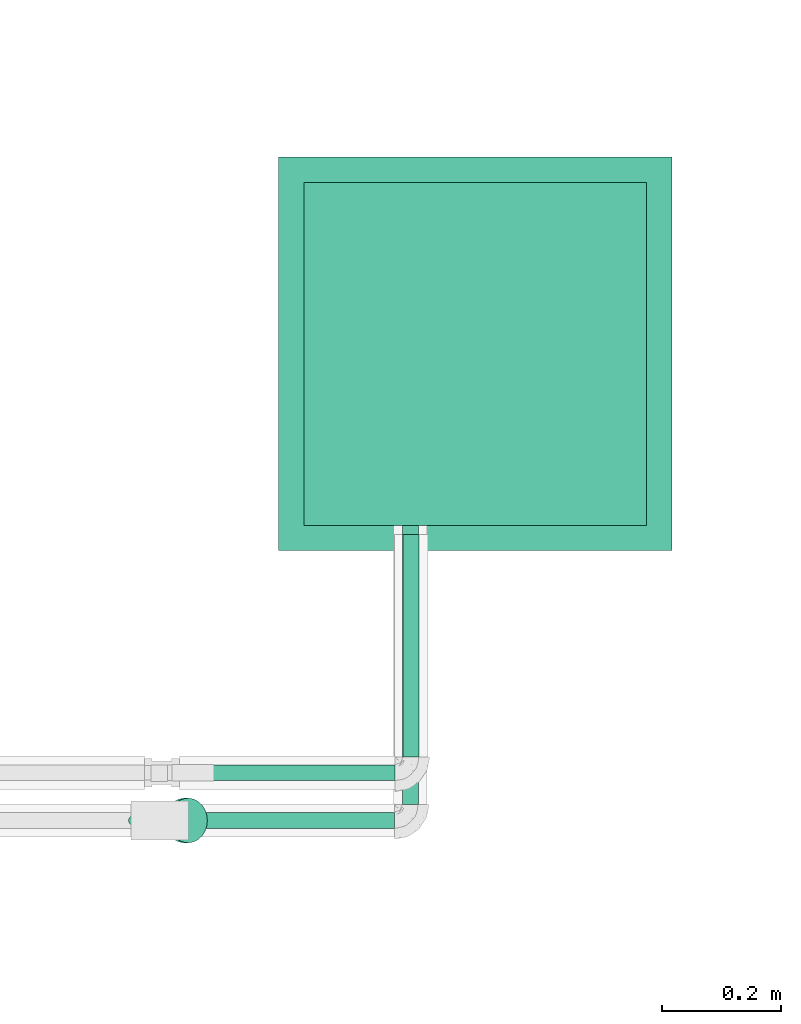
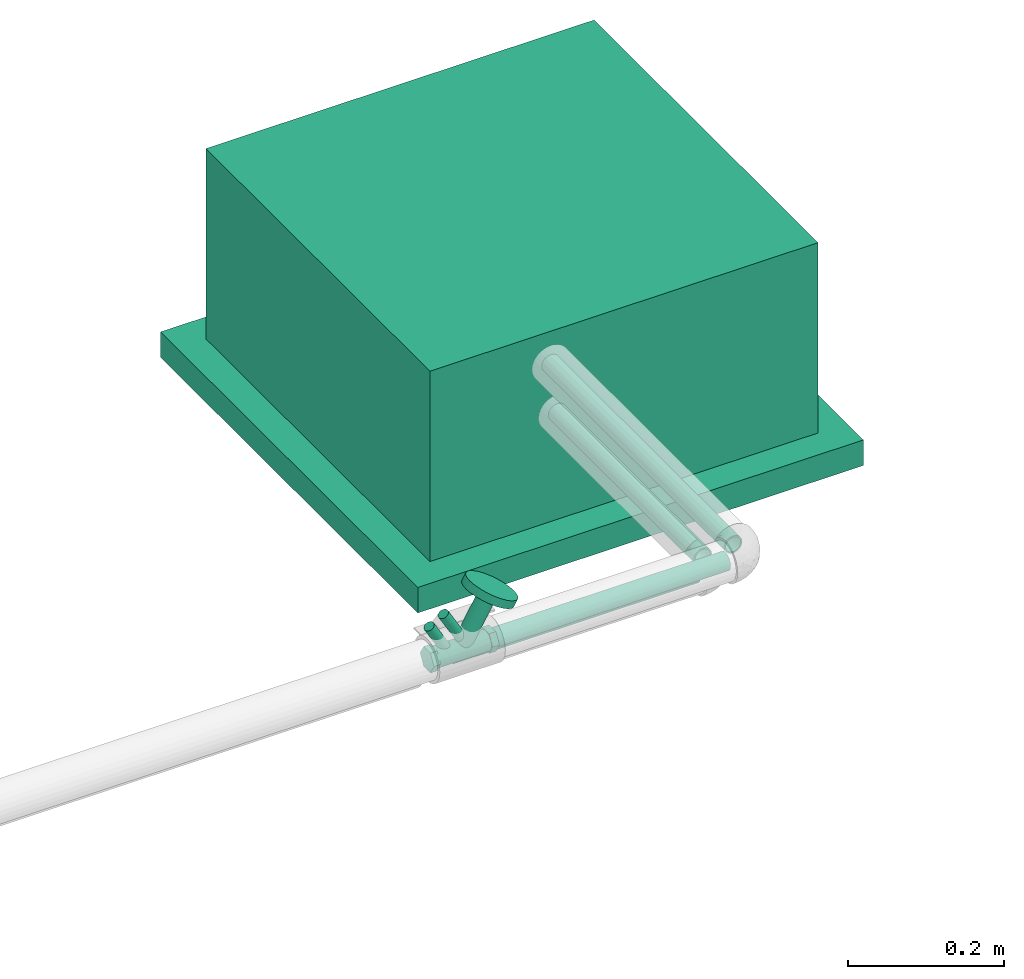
# One storey, part 62 of 108: 4 flow segments, 1 energy conversion device, 1 flow controller.
"""IFC2X3 building model written with IfcOpenShell, lengths in millimetres."""

from ifc_helpers import new_model, entity, si_unit, converted_unit, derived_unit, direction, frame, origin_with_axes, origin_2d_with_axis, place, context, subcontext, project, spatial, hollow_circle, extrude, open_shell, surface_model, source, transform, mapped, type_object, element, save


model = new_model("IFC2X3")

# Units and contexts
model_context = context("Model", 3, precision=0.01, world=frame((0.0, 4.29681676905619e-09, 0.0)), true_north=direction((4.01073788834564e-13, 1.0)))
plan_context = context("Plan", 3, precision=0.01, world=frame((0.0, 4.29681676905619e-09, 0.0)), true_north=direction((4.01073788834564e-13, 1.0)))
body_context = subcontext(model_context, "Body", "Model", "MODEL_VIEW")
ifc_project = project(units=[converted_unit("PLANEANGLEUNIT", "DEGREE", entity("IfcPositiveLengthMeasure", 0.0174532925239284), si_unit("PLANEANGLEUNIT", "RADIAN"), dimensions=[0, 0, 0, 0, 0, 0, 0]), si_unit("AREAUNIT", "SQUARE_METRE"), si_unit("LENGTHUNIT", "METRE", prefix="MILLI"), si_unit("MASSUNIT", "GRAM", prefix="KILO"), si_unit("POWERUNIT", "WATT"), si_unit("PRESSUREUNIT", "PASCAL", prefix="KILO"), si_unit("FORCEUNIT", "NEWTON", prefix="KILO"), si_unit("ELECTRICVOLTAGEUNIT", "VOLT"), si_unit("ELECTRICCURRENTUNIT", "AMPERE"), si_unit("THERMODYNAMICTEMPERATUREUNIT", "DEGREE_CELSIUS"), si_unit("TIMEUNIT", "SECOND"), si_unit("VOLUMEUNIT", "CUBIC_METRE"), derived_unit("LINEARVELOCITYUNIT", [(si_unit("LENGTHUNIT", "METRE"), 1), (si_unit("TIMEUNIT", "SECOND"), -1)]), derived_unit("VOLUMETRICFLOWRATEUNIT", [(si_unit("VOLUMEUNIT", "CUBIC_METRE"), 1), (si_unit("TIMEUNIT", "SECOND"), -1)]), derived_unit("THERMALTRANSMITTANCEUNIT", [(si_unit("POWERUNIT", "WATT"), 1), (si_unit("THERMODYNAMICTEMPERATUREUNIT", "KELVIN"), -1), (si_unit("AREAUNIT", "SQUARE_METRE"), -1)]), derived_unit("SOUNDPRESSUREUNIT", [(si_unit("PRESSUREUNIT", "PASCAL"), 1)])], contexts=[model_context, plan_context])

# Site, building, storey
site_placement = place(None, frame((0.0, -4.29681676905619e-09, 0.0), z_axis=(0.0, 0.0, 1.0), x_axis=(1.0, 0.0, 0.0)))
site = spatial("IfcSite", under=ifc_project, at=site_placement, CompositionType="ELEMENT")
building_placement = place(site_placement, frame((0.0, 4.29681676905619e-09, 0.0), z_axis=(0.0, 0.0, 1.0), x_axis=(1.0, 0.0, 0.0)))
building = spatial("IfcBuilding", under=site, at=building_placement, Name="mc-building", CompositionType="ELEMENT")
storey_placement = place(building_placement, frame((0.0, 0.0, 210200.0), z_axis=(0.0, 0.0, 1.0), x_axis=(1.0, 0.0, 0.0)))
storey = spatial("IfcBuildingStorey", under=building, at=storey_placement, Name="Nivå F - 0,7 m", CompositionType="ELEMENT", Elevation=210200.0)

# Energy conversion device
coil_type = type_object("IfcCoilType", Name="GCS2.UWW.K01", PredefinedType="WATERHEATINGCOIL")
shared_shape_1 = source(origin_with_axes(), body_context, "Body", "SurfaceModel", [
    surface_model("IfcShellBasedSurfaceModel", [(-329.99999, 329.99999, 0.0), (-329.99999, -329.99999, 0.0), (329.99999, -329.99999, 0.0), (329.99999, 329.99999, 0.0), (329.99999, 329.99999, -40.0), (329.99999, -329.99999, -40.0), (-329.99999, -329.99999, -40.0), (-329.99999, 329.99999, -40.0), (-287.5, 287.5, 25.0), (-287.5, -287.5, 25.0), (287.5, -287.5, 25.0), (287.5, 287.5, 25.0), (287.5, 287.5, 0.0), (287.5, -287.5, 0.0), (-287.5, -287.5, 0.0), (-287.5, 287.5, 0.0), (-287.5, 287.5, 298.0), (-287.5, -287.5, 298.0), (287.5, -287.5, 298.0), (287.5, 287.5, 298.0)], [open_shell([[[0, 1, 2]], [[2, 3, 0]], [[4, 5, 6]], [[6, 7, 4]], [[2, 1, 6]], [[6, 5, 2]], [[3, 2, 5]], [[5, 4, 3]], [[0, 3, 4]], [[4, 7, 0]], [[1, 0, 7]], [[7, 6, 1]], [[8, 9, 10]], [[10, 11, 8]], [[12, 13, 14]], [[14, 15, 12]], [[10, 9, 14]], [[14, 13, 10]], [[11, 10, 13]], [[13, 12, 11]], [[8, 11, 12]], [[12, 15, 8]], [[9, 8, 15]], [[15, 14, 9]], [[16, 17, 18]], [[18, 19, 16]], [[11, 10, 9]], [[9, 8, 11]], [[18, 17, 10]], [[9, 10, 17]], [[19, 18, 11]], [[10, 11, 18]], [[16, 19, 8]], [[11, 8, 19]], [[17, 16, 9]], [[8, 9, 16]]])]),
])
energy_conversion_device_placement = place(storey_placement, frame((343039.68344, 464685.97358, 2700.0), z_axis=(0.0, 0.0, 1.0), x_axis=(0.0, 1.0, 0.0)))
element("IfcEnergyConversionDevice", 1, at=energy_conversion_device_placement, inside=storey, type_object=coil_type, Name="GCS2.UWW.K01", context=body_context, shape_type="MappedRepresentation", body=[
    mapped(shared_shape_1, transform((0.0, 0.0, 0.0), scale=1.0)),
])

# Flow controller
valve_type = type_object("IfcValveType", Name="STAD/F-20", PredefinedType="NOTDEFINED")
shared_shape_2 = source(origin_with_axes(), body_context, "Body", "SurfaceModel", [
    surface_model("IfcShellBasedSurfaceModel", [(5.41266, -10.82532, 3.125), (7.65466, -8.83883, 4.41942), (5.32606, -10.65211, 3.075), (2.75697, -11.88089, 1.59174), (0.0, -12.3, 0.0), (2.8018, -12.07407, 1.61762), (0.0, -12.5, 0.0), (7.53218, -8.69741, 4.34871), (10.45645, -3.23524, 6.03704), (10.65211, 0.0, 6.15), (10.28915, -3.18347, 5.94044), (10.82532, 0.0, 6.25), (9.375, -6.25, 5.41266), (9.225, -6.15, 5.32606), (-2.75697, -11.88089, -1.59174), (-2.8018, -12.07407, -1.61762), (-5.32606, -10.65211, -3.075), (-7.65466, -8.83883, -4.41942), (-5.41266, -10.82532, -3.125), (-7.53218, -8.69741, -4.34871), (-9.225, -6.15, -5.32606), (-9.375, -6.25, -5.41266), (-10.28915, -3.18347, -5.94044), (-10.45645, -3.23524, -6.03704), (-10.65211, 0.0, -6.15), (-10.82532, 0.0, -6.25), (10.45645, 3.23524, 6.03704), (10.28915, 3.18347, 5.94044), (9.225, 6.15, 5.32606), (9.375, 6.25, 5.41266), (7.53218, 8.69741, 4.34871), (7.65466, 8.83883, 4.41942), (5.41266, 10.82532, 3.125), (5.32606, 10.65211, 3.075), (2.75697, 11.88089, 1.59174), (2.8018, 12.07407, 1.61762), (0.0, 12.3, 0.0), (0.0, 12.5, 0.0), (-9.375, 6.25, -5.41266), (-9.225, 6.15, -5.32606), (-7.65466, 8.83883, -4.41942), (-7.53218, 8.69741, -4.34871), (-10.45645, 3.23524, -6.03704), (-10.28915, 3.18347, -5.94044), (-2.75697, 11.88089, -1.59174), (-2.8018, 12.07407, -1.61762), (-5.32606, 10.65211, -3.075), (-5.41266, 10.82532, -3.125), (78.86936, 9.70571, -64.16131), (70.46396, 26.5165, -69.01416), (75.625, 18.75, -66.03444), (24.53603, 26.5165, -95.53067), (16.13063, 9.70571, -100.38353), (19.37499, 18.75, -98.51039), (31.26202, 32.47595, -91.64741), (63.73797, -32.47595, -72.89742), (75.625, -18.75, -66.03444), (70.46396, -26.5165, -69.01416), (55.90539, -36.22222, -77.41956), (47.49999, -37.5, -82.27241), (69.625, -18.75, -55.64213), (57.73797, -32.47595, -62.50511), (64.46396, -26.5165, -58.62186), (10.13063, -9.70571, -89.99122), (10.13063, 9.70571, -89.99122), (9.02404, 0.0, -90.63011), (72.86936, -9.70571, -53.769), (64.46396, 26.5165, -58.62186), (72.86936, 9.70571, -53.769), (69.625, 18.75, -55.64213), (57.73797, 32.47595, -62.50511), (49.90539, 36.22222, -67.02725), (25.26202, 32.47595, -81.25511), (41.5, 37.5, -71.88011), (33.0946, 36.22222, -76.73297), (13.375, 18.75, -88.11809), (18.53603, 26.5165, -85.13836), (39.0946, 36.22222, -87.12527), (15.02404, 0.0, -101.02241), (47.49999, 37.5, -82.27241), (55.90539, 36.22222, -77.41956), (63.73797, 32.47595, -72.89742), (79.97595, 0.0, -63.52242), (73.97595, 0.0, -53.13011), (78.86936, -9.70571, -64.16131), (49.90539, -36.22222, -67.02725), (41.5, -37.5, -71.88011), (33.0946, -36.22222, -76.73297), (39.0946, -36.22222, -87.12527), (25.26202, -32.47595, -81.25511), (31.26202, -32.47595, -91.64741), (19.37499, -18.75, -98.51039), (18.53603, -26.5165, -85.13836), (13.375, -18.75, -88.11809), (24.53603, -26.5165, -95.53067), (16.13063, -9.70571, -100.38353), (46.91266, 10.82532, -68.75511), (49.15465, 8.83883, -67.46069), (46.82605, 10.65211, -68.80511), (44.25696, 11.88089, -70.28837), (41.5, 12.3, -71.88011), (44.30179, 12.07407, -70.26249), (41.5, 12.5, -71.88011), (49.03218, 8.69741, -67.5314), (51.95645, 3.23524, -65.84307), (52.15211, 0.0, -65.73011), (51.78915, 3.18347, -65.93967), (52.32531, 0.0, -65.63011), (50.875, 6.25, -66.46745), (50.725, 6.15, -66.55405), (38.74302, 11.88089, -73.47185), (38.6982, 12.07407, -73.49773), (36.17394, 10.65211, -74.95511), (33.84534, 8.83883, -76.29953), (36.08734, 10.82532, -75.00511), (33.96781, 8.69741, -76.22881), (32.275, 6.15, -77.20617), (32.125, 6.25, -77.29277), (31.21084, 3.18347, -77.82055), (31.04354, 3.23524, -77.91715), (30.84788, 0.0, -78.03011), (30.67468, 0.0, -78.13011), (51.95645, -3.23524, -65.84307), (51.78915, -3.18347, -65.93967), (50.725, -6.15, -66.55405), (50.875, -6.25, -66.46745), (49.03218, -8.69741, -67.5314), (49.15465, -8.83883, -67.46069), (46.91266, -10.82532, -68.75511), (46.82605, -10.65211, -68.80511), (44.25696, -11.88089, -70.28837), (44.30179, -12.07407, -70.26249), (41.5, -12.3, -71.88011), (41.5, -12.5, -71.88011), (32.125, -6.25, -77.29277), (32.275, -6.15, -77.20617), (33.84534, -8.83883, -76.29953), (33.96781, -8.69741, -76.22881), (31.04354, -3.23524, -77.91715), (31.21084, -3.18347, -77.82055), (38.74302, -11.88089, -73.47185), (38.6982, -12.07407, -73.49773), (36.17394, -10.65211, -74.95511), (36.08734, -10.82532, -75.00511), (48.5, 8.91, -15.43257), (48.5, 17.82, 0.0), (48.5, -8.91, -15.43257), (48.5, 8.91, 15.43257), (48.5, -8.91, 15.43257), (48.5, -17.82, 0.0), (38.5, -17.82, 0.0), (38.5, -8.91, 15.43257), (38.5, -8.91, -15.43257), (38.5, 8.91, 15.43257), (38.5, 17.82, 0.0), (38.5, 8.91, -15.43257), (-48.5, -8.91, -15.43257), (-48.5, -17.82, 0.0), (-48.5, 8.91, -15.43257), (-48.5, -8.91, 15.43257), (-48.5, 8.91, 15.43257), (-48.5, 17.82, 0.0), (-38.5, 17.82, 0.0), (-38.5, 8.91, 15.43257), (-38.5, 8.91, -15.43257), (-38.5, -8.91, 15.43257), (-38.5, -17.82, 0.0), (-38.5, -8.91, -15.43257), (38.5, 7.425, -12.86048), (38.5, -7.425, -12.86048), (38.5, 3.84346, -14.344), (38.5, 10.50054, -10.50054), (38.5, -14.344, 3.84346), (38.5, -3.84346, 14.344), (38.5, 12.86048, -7.425), (38.5, 14.344, -3.84346), (38.5, -10.50054, 10.50054), (38.5, 0.0, -14.85), (38.5, -3.84346, -14.344), (38.5, -10.50054, -10.50054), (38.5, -14.344, -3.84346), (38.5, -12.86048, -7.425), (38.5, 14.85, 0.0), (38.5, 14.344, 3.84346), (38.5, 12.86048, 7.425), (38.5, 10.50054, 10.50054), (38.5, 7.425, 12.86048), (38.5, 3.84346, 14.344), (38.5, 0.0, 14.85), (38.5, -12.86048, 7.425), (38.5, -14.85, 0.0), (38.5, -7.425, 12.86048), (-38.5, 0.0, 14.85), (-38.5, 3.84346, 14.344), (-38.5, 7.425, 12.86048), (-38.5, -3.84346, 14.344), (-38.5, 10.50054, 10.50054), (-38.5, 12.86048, 7.425), (-38.5, 14.344, 3.84346), (-38.5, -10.50054, 10.50054), (-38.5, -7.425, 12.86048), (-38.5, -14.344, 3.84346), (-38.5, -12.86048, 7.425), (-38.5, -14.344, -3.84346), (-38.5, -14.85, 0.0), (-38.5, 10.50054, -10.50054), (-38.5, 14.344, -3.84346), (-38.5, 12.86048, -7.425), (-38.5, 7.425, -12.86048), (-38.5, -7.425, -12.86048), (-38.5, 0.0, -14.85), (-38.5, 3.84346, -14.344), (-38.5, -10.50054, -10.50054), (-38.5, -12.86048, -7.425), (-38.5, -3.84346, -14.344), (-38.5, 14.85, 0.0), (-21.28648, 6.49519, -65.18525), (-29.12686, 5.3033, -60.6586), (-22.85299, 7.24444, -64.28082), (-18.90907, 3.75, -66.55784), (-19.94128, 5.3033, -65.9619), (-18.2602, 1.94114, -66.93247), (-18.03888, 0.0, -67.06025), (-31.02926, 0.0, -59.56025), (-26.21515, 7.24444, -62.33968), (-27.78167, 6.49519, -61.43524), (-24.53407, 7.5, -63.31025), (-30.15907, 3.75, -60.06265), (-30.80794, 1.94114, -59.68803), (-18.90907, -3.75, -66.55784), (-21.28648, -6.49519, -65.18525), (-19.94128, -5.3033, -65.9619), (-22.85299, -7.24444, -64.28082), (-24.53407, -7.5, -63.31025), (-29.12686, -5.3033, -60.6586), (-30.15907, -3.75, -60.06265), (-30.80794, -1.94114, -59.68803), (-26.21515, -7.24444, -62.33968), (-27.78167, -6.49519, -61.43524), (-18.2602, -1.94114, -66.93247), (11.647, -7.24444, -4.52506), (5.37313, -5.3033, -0.90284), (9.96592, -7.5, -3.55449), (14.55872, -5.3033, -6.20614), (13.21352, -6.49519, -5.42949), (16.2398, 1.94114, -7.17671), (15.59092, -3.75, -6.80209), (16.46111, 0.0, -7.30449), (8.28485, -7.24444, -2.58392), (6.71833, -6.49519, -1.67949), (3.69205, -1.94114, 0.06773), (4.34092, -3.75, -0.3069), (3.69205, 1.94114, 0.06773), (3.47073, 0.0, 0.19551), (16.2398, -1.94114, -7.17671), (11.647, 7.24444, -4.52506), (15.59092, 3.75, -6.80209), (14.55872, 5.3033, -6.20614), (13.21352, 6.49519, -5.42949), (6.71833, 6.49519, -1.67949), (5.37313, 5.3033, -0.90284), (4.34092, 3.75, -0.3069), (9.96592, 7.5, -3.55449), (8.28485, 7.24444, -2.58392), (-45.53519, 7.5, -51.18525), (-43.85411, 7.24444, -52.15582), (-42.28759, 6.49519, -53.06025), (-40.9424, 5.3033, -53.8369), (-51.80906, 1.94114, -47.56303), (-39.26132, 1.94114, -54.80747), (-39.91019, 3.75, -54.43284), (-51.80906, -1.94114, -47.56303), (-47.21627, 7.24444, -50.21468), (-50.12798, 5.3033, -48.5336), (-48.78278, 6.49519, -49.31025), (-51.16019, 3.75, -47.93765), (-39.04, 0.0, -54.93525), (-39.26132, -1.94114, -54.80747), (-39.91019, -3.75, -54.43284), (-40.9424, -5.3033, -53.8369), (-42.28759, -6.49519, -53.06025), (-43.85411, -7.24444, -52.15582), (-45.53519, -7.5, -51.18525), (-50.12798, -5.3033, -48.5336), (-51.16019, -3.75, -47.93765), (-52.03038, 0.0, -47.43525), (-47.21627, -7.24444, -50.21468), (-48.78278, -6.49519, -49.31025), (-19.35411, -7.24444, -9.72057), (-25.62798, -5.3033, -6.09835), (-21.03519, -7.5, -8.75), (-16.4424, -5.3033, -11.40165), (-17.7876, -6.49519, -10.625), (-15.41019, -3.75, -11.9976), (-14.76132, -1.94114, -12.37222), (-24.28279, -6.49519, -6.875), (-22.71627, -7.24444, -7.77943), (-26.66019, -3.75, -5.50241), (-27.30906, -1.94114, -5.12778), (-27.30906, 1.94114, -5.12778), (-27.53038, 0.0, -5.0), (-14.76132, 1.94114, -12.37222), (-19.35411, 7.24444, -9.72057), (-16.4424, 5.3033, -11.40165), (-15.41019, 3.75, -11.9976), (-17.7876, 6.49519, -10.625), (-25.62798, 5.3033, -6.09835), (-26.66019, 3.75, -5.50241), (-24.28279, 6.49519, -6.875), (-21.03519, 7.5, -8.75), (-22.71627, 7.24444, -7.77943), (-14.54, 0.0, -12.5)], [open_shell([[[0, 1, 2]], [[0, 2, 3]], [[4, 5, 3]], [[5, 4, 6]], [[3, 5, 0]], [[2, 1, 7]], [[8, 9, 10]], [[9, 8, 11]], [[8, 10, 12]], [[7, 12, 13]], [[12, 7, 1]], [[13, 12, 10]], [[6, 14, 15]], [[15, 14, 16]], [[17, 18, 19]], [[16, 18, 15]], [[16, 19, 18]], [[6, 4, 14]], [[20, 21, 17]], [[21, 20, 22]], [[20, 17, 19]], [[23, 22, 24]], [[22, 23, 21]], [[23, 24, 25]], [[11, 26, 27]], [[27, 26, 28]], [[28, 29, 30]], [[29, 28, 26]], [[30, 29, 31]], [[31, 32, 33]], [[33, 32, 34]], [[34, 35, 36]], [[35, 34, 32]], [[36, 35, 37]], [[33, 30, 31]], [[38, 39, 40]], [[40, 39, 41]], [[39, 38, 42]], [[25, 43, 42]], [[42, 43, 39]], [[25, 24, 43]], [[44, 37, 45]], [[44, 45, 46]], [[41, 47, 40]], [[41, 46, 47]], [[47, 46, 45]], [[36, 37, 44]], [[27, 9, 11]], [[48, 49, 50]], [[51, 52, 53]], [[52, 51, 54]], [[55, 56, 57]], [[55, 58, 59]], [[60, 61, 62]], [[63, 64, 65]], [[63, 66, 67]], [[66, 68, 67]], [[67, 68, 69]], [[67, 70, 71]], [[72, 73, 74]], [[64, 52, 65]], [[75, 53, 64]], [[54, 76, 72]], [[75, 76, 51]], [[77, 72, 74]], [[64, 53, 52]], [[52, 78, 65]], [[77, 54, 72]], [[51, 76, 54]], [[51, 53, 75]], [[79, 77, 74]], [[74, 73, 79]], [[71, 80, 73]], [[70, 81, 71]], [[50, 67, 69]], [[70, 67, 49]], [[48, 69, 68]], [[70, 49, 81]], [[81, 80, 71]], [[82, 48, 68]], [[50, 69, 48]], [[50, 49, 67]], [[83, 82, 68]], [[73, 80, 79]], [[66, 84, 83]], [[60, 56, 66]], [[55, 62, 61]], [[60, 62, 57]], [[58, 61, 85]], [[66, 56, 84]], [[84, 82, 83]], [[58, 55, 61]], [[57, 62, 55]], [[57, 56, 60]], [[59, 58, 85]], [[85, 86, 59]], [[87, 88, 86]], [[89, 90, 87]], [[91, 92, 93]], [[89, 92, 94]], [[95, 93, 63]], [[89, 94, 90]], [[90, 88, 87]], [[78, 95, 63]], [[91, 93, 95]], [[91, 94, 92]], [[65, 78, 63]], [[86, 88, 59]], [[96, 97, 98]], [[96, 98, 99]], [[100, 101, 99]], [[101, 100, 102]], [[99, 101, 96]], [[98, 97, 103]], [[104, 105, 106]], [[105, 104, 107]], [[104, 106, 108]], [[103, 108, 109]], [[108, 103, 97]], [[109, 108, 106]], [[102, 110, 111]], [[111, 110, 112]], [[113, 114, 115]], [[112, 114, 111]], [[112, 115, 114]], [[102, 100, 110]], [[116, 117, 113]], [[117, 116, 118]], [[116, 113, 115]], [[119, 118, 120]], [[118, 119, 117]], [[119, 120, 121]], [[107, 122, 123]], [[123, 122, 124]], [[124, 125, 126]], [[125, 124, 122]], [[126, 125, 127]], [[127, 128, 129]], [[129, 128, 130]], [[130, 131, 132]], [[131, 130, 128]], [[132, 131, 133]], [[129, 126, 127]], [[134, 135, 136]], [[136, 135, 137]], [[135, 134, 138]], [[121, 139, 138]], [[138, 139, 135]], [[121, 120, 139]], [[140, 133, 141]], [[140, 141, 142]], [[137, 143, 136]], [[137, 142, 143]], [[143, 142, 141]], [[132, 133, 140]], [[123, 105, 107]], [[42, 119, 25]], [[38, 117, 42]], [[114, 40, 47]], [[38, 40, 113]], [[111, 47, 45]], [[42, 117, 119]], [[119, 121, 25]], [[111, 114, 47]], [[113, 40, 114]], [[113, 117, 38]], [[102, 111, 45]], [[45, 37, 102]], [[35, 101, 37]], [[32, 96, 35]], [[108, 31, 29]], [[32, 31, 97]], [[104, 29, 26]], [[32, 97, 96]], [[96, 101, 35]], [[107, 104, 26]], [[108, 29, 104]], [[108, 97, 31]], [[11, 107, 26]], [[37, 101, 102]], [[8, 122, 11]], [[12, 125, 8]], [[128, 1, 0]], [[12, 1, 127]], [[131, 0, 5]], [[11, 122, 107]], [[8, 125, 122]], [[1, 128, 127]], [[12, 127, 125]], [[0, 131, 128]], [[5, 133, 131]], [[5, 6, 133]], [[15, 141, 6]], [[18, 143, 15]], [[134, 17, 21]], [[18, 17, 136]], [[134, 21, 23]], [[141, 15, 143]], [[143, 18, 136]], [[25, 121, 138]], [[134, 23, 138]], [[134, 136, 17]], [[23, 25, 138]], [[6, 141, 133]], [[24, 118, 43]], [[43, 116, 39]], [[46, 41, 112]], [[115, 41, 39]], [[44, 46, 110]], [[120, 118, 24]], [[118, 116, 43]], [[44, 110, 100]], [[115, 39, 116]], [[112, 41, 115]], [[112, 110, 46]], [[100, 36, 44]], [[30, 33, 98]], [[27, 28, 109]], [[103, 28, 30]], [[9, 27, 106]], [[98, 34, 99]], [[34, 100, 99]], [[98, 33, 34]], [[103, 30, 98]], [[109, 28, 103]], [[27, 109, 106]], [[106, 105, 9]], [[36, 100, 34]], [[9, 123, 10]], [[10, 124, 13]], [[2, 7, 129]], [[126, 7, 13]], [[3, 2, 130]], [[105, 123, 9]], [[123, 124, 10]], [[130, 132, 4]], [[126, 13, 124]], [[2, 129, 130]], [[126, 129, 7]], [[4, 3, 130]], [[16, 14, 142]], [[16, 142, 19]], [[22, 20, 135]], [[137, 20, 19]], [[24, 22, 139]], [[4, 140, 14]], [[140, 142, 14]], [[132, 140, 4]], [[142, 137, 19]], [[135, 20, 137]], [[139, 22, 135]], [[139, 120, 24]], [[144, 145, 146]], [[146, 145, 147]], [[146, 148, 149]], [[148, 146, 147]], [[150, 151, 152]], [[152, 151, 153]], [[154, 155, 152]], [[154, 152, 153]], [[148, 147, 153]], [[153, 151, 148]], [[149, 148, 151]], [[151, 150, 149]], [[146, 149, 150]], [[150, 152, 146]], [[144, 146, 152]], [[152, 155, 144]], [[145, 144, 155]], [[155, 154, 145]], [[147, 145, 154]], [[154, 153, 147]], [[156, 157, 158]], [[158, 157, 159]], [[158, 160, 161]], [[160, 158, 159]], [[162, 163, 164]], [[164, 163, 165]], [[166, 167, 164]], [[166, 164, 165]], [[160, 159, 165]], [[165, 163, 160]], [[161, 160, 163]], [[163, 162, 161]], [[158, 161, 162]], [[162, 164, 158]], [[156, 158, 164]], [[164, 167, 156]], [[157, 156, 167]], [[167, 166, 157]], [[159, 157, 166]], [[166, 165, 159]], [[80, 81, 49]], [[79, 80, 49]], [[52, 49, 48]], [[84, 52, 48]], [[77, 52, 54]], [[77, 79, 49]], [[49, 52, 77]], [[48, 82, 84]], [[56, 78, 84]], [[55, 59, 56]], [[94, 56, 59]], [[95, 94, 91]], [[94, 95, 78]], [[59, 90, 94]], [[94, 78, 56]], [[88, 90, 59]], [[84, 78, 52]], [[85, 92, 86]], [[66, 85, 61]], [[60, 66, 61]], [[92, 85, 66]], [[87, 92, 89]], [[87, 86, 92]], [[92, 63, 93]], [[66, 63, 92]], [[72, 63, 67]], [[73, 67, 71]], [[75, 72, 76]], [[64, 63, 75]], [[75, 63, 72]], [[73, 72, 67]], [[68, 66, 83]], [[168, 169, 170]], [[171, 172, 168]], [[173, 174, 175]], [[176, 171, 174]], [[172, 169, 168]], [[177, 169, 178]], [[177, 170, 169]], [[179, 180, 181]], [[180, 179, 169]], [[169, 172, 180]], [[175, 182, 183]], [[183, 184, 185]], [[183, 185, 186]], [[186, 187, 188]], [[183, 186, 173]], [[173, 186, 188]], [[172, 176, 189]], [[190, 180, 172]], [[176, 173, 191]], [[172, 171, 176]], [[176, 174, 173]], [[183, 173, 175]], [[192, 193, 194]], [[195, 192, 194]], [[196, 197, 198]], [[195, 194, 196]], [[195, 196, 198]], [[195, 199, 200]], [[199, 195, 201]], [[199, 201, 202]], [[195, 198, 201]], [[201, 203, 204]], [[201, 198, 205]], [[206, 207, 198]], [[207, 205, 198]], [[208, 209, 201]], [[201, 205, 208]], [[210, 208, 211]], [[203, 212, 213]], [[212, 203, 209]], [[209, 210, 214]], [[203, 201, 209]], [[208, 210, 209]], [[198, 215, 206]], [[180, 203, 213]], [[212, 181, 213]], [[169, 209, 214]], [[212, 209, 179]], [[178, 214, 210]], [[203, 190, 204]], [[203, 180, 190]], [[213, 181, 180]], [[212, 179, 181]], [[169, 179, 209]], [[214, 178, 169]], [[210, 177, 178]], [[170, 211, 208]], [[205, 168, 208]], [[174, 207, 206]], [[205, 207, 171]], [[175, 206, 215]], [[211, 170, 177]], [[208, 168, 170]], [[205, 171, 168]], [[207, 174, 171]], [[175, 174, 206]], [[215, 182, 175]], [[211, 177, 210]], [[215, 198, 183]], [[186, 194, 193]], [[194, 185, 196]], [[187, 193, 192]], [[215, 183, 182]], [[183, 198, 197]], [[183, 197, 184]], [[197, 196, 184]], [[184, 196, 185]], [[185, 194, 186]], [[193, 187, 186]], [[192, 188, 187]], [[173, 195, 200]], [[199, 191, 200]], [[189, 202, 201]], [[199, 202, 176]], [[172, 201, 204]], [[195, 173, 188]], [[200, 191, 173]], [[199, 176, 191]], [[202, 189, 176]], [[172, 189, 201]], [[204, 190, 172]], [[195, 188, 192]], [[216, 217, 218]], [[219, 216, 220]], [[219, 221, 222]], [[219, 222, 216]], [[223, 217, 216]], [[224, 217, 225]], [[224, 226, 218]], [[227, 223, 228]], [[224, 218, 217]], [[227, 217, 223]], [[223, 216, 222]], [[222, 229, 230]], [[230, 229, 231]], [[230, 232, 233]], [[222, 230, 234]], [[234, 230, 233]], [[223, 235, 236]], [[235, 223, 234]], [[234, 237, 238]], [[223, 222, 234]], [[233, 237, 234]], [[222, 239, 229]], [[240, 241, 242]], [[243, 240, 244]], [[241, 243, 245]], [[243, 241, 240]], [[243, 246, 247]], [[248, 241, 249]], [[248, 242, 241]], [[241, 250, 251]], [[241, 252, 250]], [[250, 252, 253]], [[246, 254, 247]], [[252, 241, 245]], [[255, 245, 256]], [[257, 258, 255]], [[257, 255, 256]], [[259, 245, 255]], [[252, 260, 261]], [[260, 252, 259]], [[259, 262, 263]], [[259, 252, 245]], [[255, 262, 259]], [[245, 243, 247]], [[252, 228, 253]], [[261, 227, 252]], [[225, 260, 259]], [[261, 260, 217]], [[224, 259, 263]], [[252, 227, 228]], [[228, 223, 253]], [[224, 225, 259]], [[217, 260, 225]], [[217, 227, 261]], [[226, 224, 263]], [[263, 262, 226]], [[255, 218, 262]], [[258, 216, 255]], [[219, 257, 256]], [[258, 257, 220]], [[221, 256, 245]], [[258, 220, 216]], [[216, 218, 255]], [[222, 221, 245]], [[219, 256, 221]], [[219, 220, 257]], [[247, 222, 245]], [[262, 218, 226]], [[254, 239, 247]], [[246, 229, 254]], [[230, 243, 244]], [[246, 243, 231]], [[232, 244, 240]], [[247, 239, 222]], [[254, 229, 239]], [[243, 230, 231]], [[246, 231, 229]], [[244, 232, 230]], [[240, 233, 232]], [[240, 242, 233]], [[248, 237, 242]], [[249, 238, 248]], [[235, 241, 251]], [[249, 241, 234]], [[236, 251, 250]], [[237, 248, 238]], [[238, 249, 234]], [[253, 223, 236]], [[235, 251, 236]], [[235, 234, 241]], [[250, 253, 236]], [[242, 237, 233]], [[264, 265, 266]], [[267, 264, 266]], [[268, 267, 269]], [[269, 267, 270]], [[271, 268, 269]], [[272, 273, 274]], [[273, 272, 264]], [[273, 268, 275]], [[268, 273, 264]], [[264, 267, 268]], [[269, 276, 277]], [[277, 278, 279]], [[280, 269, 279]], [[269, 281, 271]], [[269, 280, 281]], [[271, 281, 282]], [[271, 283, 284]], [[285, 268, 271]], [[283, 286, 287]], [[286, 283, 271]], [[282, 286, 271]], [[269, 277, 279]], [[288, 289, 290]], [[291, 288, 292]], [[291, 293, 294]], [[291, 294, 288]], [[289, 288, 294]], [[290, 295, 296]], [[290, 289, 295]], [[294, 297, 289]], [[298, 297, 294]], [[298, 299, 300]], [[298, 294, 301]], [[298, 301, 302]], [[303, 301, 304]], [[305, 302, 301]], [[305, 301, 303]], [[298, 302, 299]], [[299, 306, 307]], [[306, 299, 308]], [[308, 309, 310]], [[308, 299, 302]], [[302, 309, 308]], [[301, 294, 311]], [[299, 268, 300]], [[307, 275, 299]], [[274, 306, 308]], [[307, 306, 273]], [[272, 308, 310]], [[299, 275, 268]], [[268, 285, 300]], [[272, 274, 308]], [[273, 306, 274]], [[273, 275, 307]], [[264, 272, 310]], [[310, 309, 264]], [[302, 265, 309]], [[305, 266, 302]], [[270, 303, 304]], [[305, 303, 267]], [[269, 304, 301]], [[305, 267, 266]], [[266, 265, 302]], [[276, 269, 301]], [[270, 304, 269]], [[270, 267, 303]], [[311, 276, 301]], [[309, 265, 264]], [[294, 277, 311]], [[293, 278, 294]], [[280, 291, 292]], [[293, 291, 279]], [[281, 292, 288]], [[294, 278, 277]], [[277, 276, 311]], [[281, 280, 292]], [[279, 291, 280]], [[279, 278, 293]], [[282, 281, 288]], [[288, 290, 282]], [[296, 286, 290]], [[295, 287, 296]], [[284, 289, 297]], [[295, 289, 283]], [[271, 297, 298]], [[295, 283, 287]], [[287, 286, 296]], [[285, 271, 298]], [[284, 297, 271]], [[284, 283, 289]], [[300, 285, 298]], [[290, 286, 282]]])]),
])
flow_controller_placement = place(storey_placement, frame((342510.56258, 463903.47358, 2948.0), z_axis=(0.0, 0.0, -1.0), x_axis=(1.0, 0.0, 0.0)))
element("IfcFlowController", 2, at=flow_controller_placement, inside=storey, type_object=valve_type, Name="STAD/F-20", context=body_context, shape_type="MappedRepresentation", body=[
    mapped(shared_shape_2, transform((0.0, 0.0, 0.0), scale=1.0)),
])

# Flow segments
pipe_segment_type = type_object("IfcPipeSegmentType", Name="Stålrør normaltykke", PredefinedType="RIGIDSEGMENT")
shared_shape_3 = source(origin_with_axes(), body_context, "Body", "SweptSolid", [
    extrude(hollow_circle(Radius=13.3, WallThickness=2.0, at=origin_2d_with_axis()), frame((0.0, 0.0, 0.0), z_axis=(1.0, 0.0, 0.0), x_axis=(0.0, 1.0, 0.0)), (0.0, 0.0, 1.0), 373.2),
])
flow_segment_1_placement = place(storey_placement, frame((342932.18344, 464010.27358, 2880.0), z_axis=(0.0, 0.0, 1.0), x_axis=(0.0, 1.0, 0.0)))
element("IfcFlowSegment", 3, at=flow_segment_1_placement, inside=storey, type_object=pipe_segment_type, Name="Stålrør normaltykke", context=body_context, shape_type="MappedRepresentation", body=[
    mapped(shared_shape_3, transform((0.0, 0.0, 0.0), scale=1.0)),
])
shared_shape_4 = source(origin_with_axes(), body_context, "Body", "SweptSolid", [
    extrude(hollow_circle(Radius=13.3, WallThickness=2.0, at=origin_2d_with_axis()), frame((0.0, 0.0, 0.0), z_axis=(1.0, 0.0, 0.0), x_axis=(0.0, 1.0, 0.0)), (0.0, 0.0, 1.0), 468.2),
])
flow_segment_2_placement = place(storey_placement, frame((342930.98344, 463930.27358, 2948.0), z_axis=(0.0, 0.0, 1.0), x_axis=(0.0, 1.0, 0.0)))
element("IfcFlowSegment", 4, at=flow_segment_2_placement, inside=storey, type_object=pipe_segment_type, Name="Stålrør normaltykke", context=body_context, shape_type="MappedRepresentation", body=[
    mapped(shared_shape_4, transform((0.0, 0.0, 0.0), scale=1.0)),
])
shared_shape_5 = source(origin_with_axes(), body_context, "Body", "SweptSolid", [
    extrude(hollow_circle(Radius=13.3, WallThickness=2.0, at=origin_2d_with_axis()), frame((0.0, 0.0, 0.0), z_axis=(1.0, 0.0, 0.0), x_axis=(0.0, 1.0, 0.0)), (0.0, 0.0, 1.0), 361.9),
])
flow_segment_3_placement = place(storey_placement, frame((342905.38344, 463983.47358, 2880.0), z_axis=(0.0, 0.0, 1.0), x_axis=(-1.0, 0.0, 0.0)))
element("IfcFlowSegment", 5, at=flow_segment_3_placement, inside=storey, type_object=pipe_segment_type, Name="Stålrør normaltykke", context=body_context, shape_type="MappedRepresentation", body=[
    mapped(shared_shape_5, transform((0.0, 0.0, 0.0), scale=1.0)),
])
shared_shape_6 = source(origin_with_axes(), body_context, "Body", "SweptSolid", [
    extrude(hollow_circle(Radius=13.3, WallThickness=2.0, at=origin_2d_with_axis()), frame((0.0, 0.0, 0.0), z_axis=(1.0, 0.0, 0.0), x_axis=(0.0, 1.0, 0.0)), (0.0, 0.0, 1.0), 345.1),
])
flow_segment_4_placement = place(storey_placement, frame((342559.06258, 463903.47358, 2948.0), z_axis=(0.0, 0.0, 1.0), x_axis=(1.0, 0.0, 0.0)))
element("IfcFlowSegment", 6, at=flow_segment_4_placement, inside=storey, type_object=pipe_segment_type, Name="Stålrør normaltykke", context=body_context, shape_type="MappedRepresentation", body=[
    mapped(shared_shape_6, transform((0.0, 0.0, 0.0), scale=1.0)),
])

save(model, "model.ifc")
